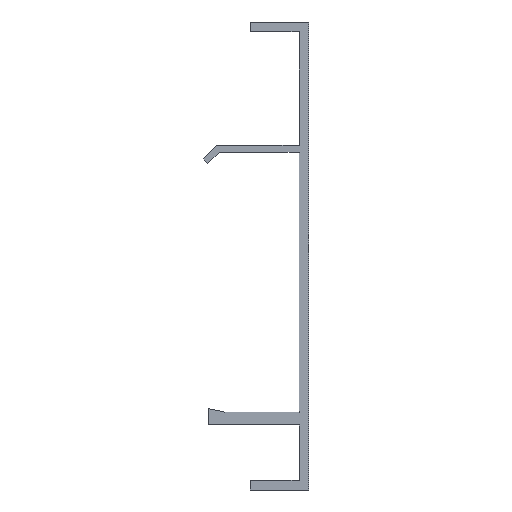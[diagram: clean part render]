
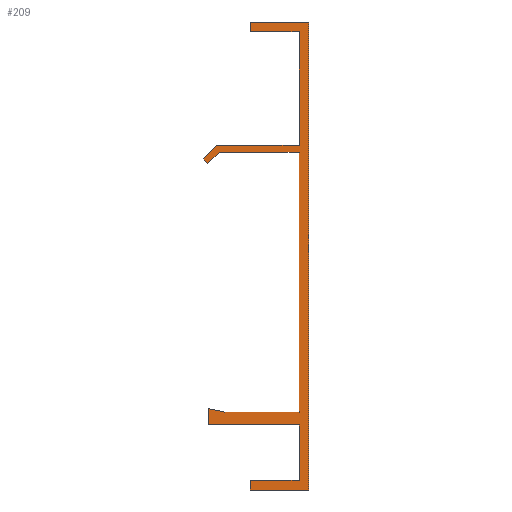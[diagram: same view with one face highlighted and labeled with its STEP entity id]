
A CAD part, left-side view. The second image highlights one B-rep face of the part: STEP entity #209.
In plain terms, the highlighted planar face has unit normal (-1, 0, 0).
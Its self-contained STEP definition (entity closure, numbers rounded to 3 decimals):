
#209=ADVANCED_FACE('',(#417),#418,.T.);
#417=FACE_OUTER_BOUND('',#617,.T.);
#418=PLANE('',#618);
#617=EDGE_LOOP('',(#1164,#1165,#1166,#1167,#1168,#1169,#1170,#1171,#1172,#1173,#1174,#1175,#1176,#1177,#1178,#1179,#1180,#1181,#1182,#1183,#1184,#1185,#1186));
#618=AXIS2_PLACEMENT_3D('',#1187,#1188,#1189);
#1164=ORIENTED_EDGE('',*,*,#1442,.T.);
#1165=ORIENTED_EDGE('',*,*,#1438,.T.);
#1166=ORIENTED_EDGE('',*,*,#1434,.T.);
#1167=ORIENTED_EDGE('',*,*,#1430,.T.);
#1168=ORIENTED_EDGE('',*,*,#1426,.T.);
#1169=ORIENTED_EDGE('',*,*,#1422,.T.);
#1170=ORIENTED_EDGE('',*,*,#1418,.T.);
#1171=ORIENTED_EDGE('',*,*,#1414,.T.);
#1172=ORIENTED_EDGE('',*,*,#1410,.T.);
#1173=ORIENTED_EDGE('',*,*,#1274,.T.);
#1174=ORIENTED_EDGE('',*,*,#1344,.T.);
#1175=ORIENTED_EDGE('',*,*,#1349,.F.);
#1176=ORIENTED_EDGE('',*,*,#1338,.F.);
#1177=ORIENTED_EDGE('',*,*,#1369,.T.);
#1178=ORIENTED_EDGE('',*,*,#1406,.T.);
#1179=ORIENTED_EDGE('',*,*,#1402,.T.);
#1180=ORIENTED_EDGE('',*,*,#1398,.T.);
#1181=ORIENTED_EDGE('',*,*,#1394,.T.);
#1182=ORIENTED_EDGE('',*,*,#1390,.T.);
#1183=ORIENTED_EDGE('',*,*,#1386,.T.);
#1184=ORIENTED_EDGE('',*,*,#1382,.T.);
#1185=ORIENTED_EDGE('',*,*,#1378,.T.);
#1186=ORIENTED_EDGE('',*,*,#1374,.T.);
#1187=CARTESIAN_POINT('',(0.0,3.619,-36.921));
#1188=DIRECTION('',(-1.0,0.,0.));
#1189=DIRECTION('',(0.,0.,-1.0));
#1274=EDGE_CURVE('',#1542,#1540,#1543,.T.);
#1338=EDGE_CURVE('',#1634,#1637,#1638,.T.);
#1344=EDGE_CURVE('',#1540,#1645,#1647,.T.);
#1349=EDGE_CURVE('',#1637,#1645,#1654,.T.);
#1369=EDGE_CURVE('',#1634,#1677,#1679,.T.);
#1374=EDGE_CURVE('',#1687,#1685,#1688,.T.);
#1378=EDGE_CURVE('',#1693,#1687,#1694,.T.);
#1382=EDGE_CURVE('',#1699,#1693,#1700,.T.);
#1386=EDGE_CURVE('',#1705,#1699,#1706,.T.);
#1390=EDGE_CURVE('',#1711,#1705,#1712,.T.);
#1394=EDGE_CURVE('',#1717,#1711,#1718,.T.);
#1398=EDGE_CURVE('',#1723,#1717,#1724,.T.);
#1402=EDGE_CURVE('',#1729,#1723,#1730,.T.);
#1406=EDGE_CURVE('',#1677,#1729,#1734,.T.);
#1410=EDGE_CURVE('',#1739,#1542,#1740,.T.);
#1414=EDGE_CURVE('',#1745,#1739,#1746,.T.);
#1418=EDGE_CURVE('',#1751,#1745,#1752,.T.);
#1422=EDGE_CURVE('',#1757,#1751,#1758,.T.);
#1426=EDGE_CURVE('',#1763,#1757,#1764,.T.);
#1430=EDGE_CURVE('',#1769,#1763,#1770,.T.);
#1434=EDGE_CURVE('',#1775,#1769,#1776,.T.);
#1438=EDGE_CURVE('',#1781,#1775,#1782,.T.);
#1442=EDGE_CURVE('',#1685,#1781,#1786,.T.);
#1540=VERTEX_POINT('',#1916);
#1542=VERTEX_POINT('',#1918);
#1543=LINE('',#1919,#1920);
#1634=VERTEX_POINT('',#2039);
#1637=VERTEX_POINT('',#2042);
#1638=LINE('',#2043,#2044);
#1645=VERTEX_POINT('',#2053);
#1647=LINE('',#2055,#2056);
#1654=LINE('',#2064,#2065);
#1677=VERTEX_POINT('',#2095);
#1679=LINE('',#2098,#2099);
#1685=VERTEX_POINT('',#2106);
#1687=VERTEX_POINT('',#2109);
#1688=LINE('',#2110,#2111);
#1693=VERTEX_POINT('',#2118);
#1694=LINE('',#2119,#2120);
#1699=VERTEX_POINT('',#2127);
#1700=LINE('',#2128,#2129);
#1705=VERTEX_POINT('',#2136);
#1706=LINE('',#2137,#2138);
#1711=VERTEX_POINT('',#2145);
#1712=LINE('',#2146,#2147);
#1717=VERTEX_POINT('',#2154);
#1718=LINE('',#2155,#2156);
#1723=VERTEX_POINT('',#2163);
#1724=LINE('',#2164,#2165);
#1729=VERTEX_POINT('',#2172);
#1730=LINE('',#2173,#2174);
#1734=LINE('',#2180,#2181);
#1739=VERTEX_POINT('',#2187);
#1740=LINE('',#2188,#2189);
#1745=VERTEX_POINT('',#2196);
#1746=LINE('',#2197,#2198);
#1751=VERTEX_POINT('',#2205);
#1752=LINE('',#2206,#2207);
#1757=VERTEX_POINT('',#2214);
#1758=LINE('',#2215,#2216);
#1763=VERTEX_POINT('',#2223);
#1764=LINE('',#2224,#2225);
#1769=VERTEX_POINT('',#2232);
#1770=LINE('',#2233,#2234);
#1775=VERTEX_POINT('',#2241);
#1776=LINE('',#2242,#2243);
#1781=VERTEX_POINT('',#2250);
#1782=LINE('',#2251,#2252);
#1786=LINE('',#2258,#2259);
#1916=CARTESIAN_POINT('',(0.0,1.5,-59.995));
#1918=CARTESIAN_POINT('',(0.0,1.5,-20.0));
#1919=CARTESIAN_POINT('',(0.0,1.5,-20.0));
#1920=VECTOR('',#2339,1.0);
#2039=CARTESIAN_POINT('',(0.0,1.5,-59.997));
#2042=CARTESIAN_POINT('',(0.0,1.505,-59.997));
#2043=CARTESIAN_POINT('',(0.0,1.5,-59.997));
#2044=VECTOR('',#2419,1.0);
#2053=CARTESIAN_POINT('',(0.0,1.505,-59.995));
#2055=CARTESIAN_POINT('',(0.0,1.5,-59.995));
#2056=VECTOR('',#2428,1.0);
#2064=CARTESIAN_POINT('',(0.0,1.505,-59.997));
#2065=VECTOR('',#2436,1.0);
#2095=CARTESIAN_POINT('',(0.0,1.5,-60.0));
#2098=CARTESIAN_POINT('',(0.0,1.5,-20.0));
#2099=VECTOR('',#2457,1.0);
#2106=CARTESIAN_POINT('',(0.0,0.,0.0));
#2109=CARTESIAN_POINT('',(0.0,0.,-72.0));
#2110=CARTESIAN_POINT('',(0.0,0.,-72.0));
#2111=VECTOR('',#2460,1.0);
#2118=CARTESIAN_POINT('',(0.0,9.,-72.0));
#2119=CARTESIAN_POINT('',(0.0,9.,-72.0));
#2120=VECTOR('',#2463,1.0);
#2127=CARTESIAN_POINT('',(0.0,9.,-70.5));
#2128=CARTESIAN_POINT('',(0.0,9.,-70.5));
#2129=VECTOR('',#2466,1.0);
#2136=CARTESIAN_POINT('',(0.0,1.5,-70.5));
#2137=CARTESIAN_POINT('',(0.0,1.5,-70.5));
#2138=VECTOR('',#2469,1.0);
#2145=CARTESIAN_POINT('',(0.0,1.5,-62.0));
#2146=CARTESIAN_POINT('',(0.0,1.5,-62.0));
#2147=VECTOR('',#2472,1.0);
#2154=CARTESIAN_POINT('',(0.0,15.5,-62.0));
#2155=CARTESIAN_POINT('',(0.0,15.5,-62.0));
#2156=VECTOR('',#2475,1.0);
#2163=CARTESIAN_POINT('',(0.0,15.5,-59.5));
#2164=CARTESIAN_POINT('',(0.0,15.5,-59.5));
#2165=VECTOR('',#2478,1.0);
#2172=CARTESIAN_POINT('',(0.0,13.,-60.0));
#2173=CARTESIAN_POINT('',(0.0,13.,-60.0));
#2174=VECTOR('',#2481,1.0);
#2180=CARTESIAN_POINT('',(0.0,1.5,-60.0));
#2181=VECTOR('',#2484,1.0);
#2187=CARTESIAN_POINT('',(0.0,13.793,-20.0));
#2188=CARTESIAN_POINT('',(0.0,13.793,-20.0));
#2189=VECTOR('',#2486,1.0);
#2196=CARTESIAN_POINT('',(0.0,15.561,-21.768));
#2197=CARTESIAN_POINT('',(0.0,15.561,-21.768));
#2198=VECTOR('',#2489,1.0);
#2205=CARTESIAN_POINT('',(0.0,16.268,-21.061));
#2206=CARTESIAN_POINT('',(0.0,16.268,-21.061));
#2207=VECTOR('',#2492,1.);
#2214=CARTESIAN_POINT('',(0.0,14.207,-19.0));
#2215=CARTESIAN_POINT('',(0.0,14.207,-19.0));
#2216=VECTOR('',#2495,1.);
#2223=CARTESIAN_POINT('',(0.0,1.5,-19.0));
#2224=CARTESIAN_POINT('',(0.0,1.5,-19.0));
#2225=VECTOR('',#2498,1.0);
#2232=CARTESIAN_POINT('',(0.0,1.5,-1.5));
#2233=CARTESIAN_POINT('',(0.0,1.5,-1.5));
#2234=VECTOR('',#2501,1.0);
#2241=CARTESIAN_POINT('',(0.0,9.,-1.5));
#2242=CARTESIAN_POINT('',(0.0,9.,-1.5));
#2243=VECTOR('',#2504,1.0);
#2250=CARTESIAN_POINT('',(0.0,9.,0.0));
#2251=CARTESIAN_POINT('',(0.0,9.,0.0));
#2252=VECTOR('',#2507,1.0);
#2258=CARTESIAN_POINT('',(0.0,0.,0.0));
#2259=VECTOR('',#2510,1.0);
#2339=DIRECTION('',(0.,0.0,-1.0));
#2419=DIRECTION('',(0.,1.0,0.));
#2428=DIRECTION('',(0.,1.0,0.));
#2436=DIRECTION('',(0.,0.,1.0));
#2457=DIRECTION('',(0.,0.0,-1.0));
#2460=DIRECTION('',(0.,0.0,1.0));
#2463=DIRECTION('',(0.,-1.0,0.0));
#2466=DIRECTION('',(0.,0.0,-1.0));
#2469=DIRECTION('',(0.,1.0,0.0));
#2472=DIRECTION('',(0.,0.0,-1.0));
#2475=DIRECTION('',(0.,-1.0,0.0));
#2478=DIRECTION('',(0.,0.0,-1.0));
#2481=DIRECTION('',(0.,0.981,0.196));
#2484=DIRECTION('',(0.,1.0,0.0));
#2486=DIRECTION('',(0.,-1.0,0.0));
#2489=DIRECTION('',(0.,-0.707,0.707));
#2492=DIRECTION('',(0.,-0.707,-0.707));
#2495=DIRECTION('',(0.,0.707,-0.707));
#2498=DIRECTION('',(0.,1.0,0.0));
#2501=DIRECTION('',(0.,0.0,-1.0));
#2504=DIRECTION('',(0.,-1.0,0.0));
#2507=DIRECTION('',(0.,0.0,-1.0));
#2510=DIRECTION('',(0.,1.0,0.0));
